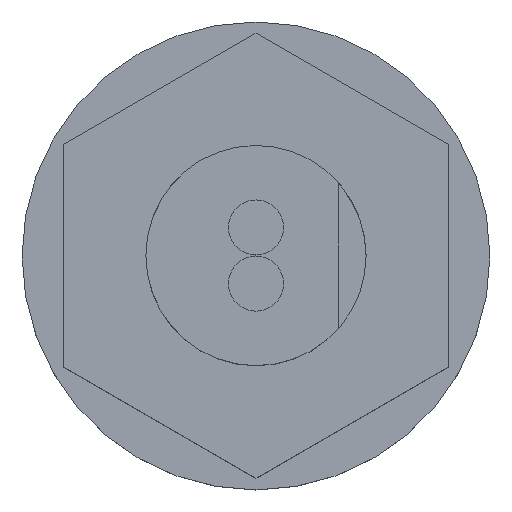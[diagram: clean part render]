
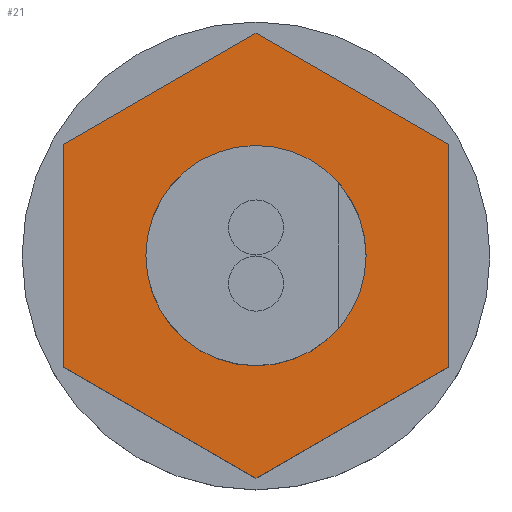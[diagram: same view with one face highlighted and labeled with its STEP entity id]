
A CAD part, top view. The second image highlights one B-rep face of the part: STEP entity #21.
In plain terms, the highlighted planar face has unit normal (0, 0, 1) as drawn and (-1, 0, 0) by its records, which use the part's own axes.
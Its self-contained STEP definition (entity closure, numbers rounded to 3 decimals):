
#12 = VERTEX_POINT ( 'NONE', #692 ) ;
#13 = VERTEX_POINT ( 'NONE', #691 ) ;
#15 = EDGE_CURVE ( 'NONE', #12, #13, #690, .T. ) ;
#21 = ADVANCED_FACE ( 'NONE', ( #675, #674 ), #673, .T. ) ;
#22 = EDGE_LOOP ( 'NONE', ( #60, #105, #108, #111, #163, #159 ) ) ;
#23 = VERTEX_POINT ( 'NONE', #668 ) ;
#24 = ORIENTED_EDGE ( 'NONE', *, *, #25, .F. ) ;
#25 = EDGE_CURVE ( 'NONE', #13, #12, #666, .T. ) ;
#60 = ORIENTED_EDGE ( 'NONE', *, *, #61, .T. ) ;
#61 = EDGE_CURVE ( 'NONE', #23, #62, #746, .T. ) ;
#62 = VERTEX_POINT ( 'NONE', #742 ) ;
#105 = ORIENTED_EDGE ( 'NONE', *, *, #106, .T. ) ;
#106 = EDGE_CURVE ( 'NONE', #62, #107, #816, .T. ) ;
#107 = VERTEX_POINT ( 'NONE', #808 ) ;
#108 = ORIENTED_EDGE ( 'NONE', *, *, #109, .T. ) ;
#109 = EDGE_CURVE ( 'NONE', #107, #110, #807, .T. ) ;
#110 = VERTEX_POINT ( 'NONE', #803 ) ;
#111 = ORIENTED_EDGE ( 'NONE', *, *, #161, .T. ) ;
#157 = ORIENTED_EDGE ( 'NONE', *, *, #15, .F. ) ;
#158 = VERTEX_POINT ( 'NONE', #904 ) ;
#159 = ORIENTED_EDGE ( 'NONE', *, *, #160, .T. ) ;
#160 = EDGE_CURVE ( 'NONE', #158, #23, #903, .T. ) ;
#161 = EDGE_CURVE ( 'NONE', #110, #162, #899, .T. ) ;
#162 = VERTEX_POINT ( 'NONE', #895 ) ;
#163 = ORIENTED_EDGE ( 'NONE', *, *, #164, .T. ) ;
#164 = EDGE_CURVE ( 'NONE', #162, #158, #894, .T. ) ;
#165 = EDGE_LOOP ( 'NONE', ( #157, #24 ) ) ;
#662 = DIRECTION ( 'NONE',  ( 0., -1., 0. ) ) ;
#663 = DIRECTION ( 'NONE',  ( -1., 0., 0. ) ) ;
#664 = CARTESIAN_POINT ( 'NONE',  ( 1.4, 0., 0. ) ) ;
#665 = AXIS2_PLACEMENT_3D ( 'NONE', #664, #663, #662 ) ;
#666 = CIRCLE ( 'NONE', #665, 2. ) ;
#668 = CARTESIAN_POINT ( 'NONE',  ( 1.4, 2.021, 3.5 ) ) ;
#669 = DIRECTION ( 'NONE',  ( 0., -1., 0. ) ) ;
#670 = DIRECTION ( 'NONE',  ( -1., 0., 0. ) ) ;
#671 = CARTESIAN_POINT ( 'NONE',  ( 1.4, 4.041, 0. ) ) ;
#672 = AXIS2_PLACEMENT_3D ( 'NONE', #671, #670, #669 ) ;
#673 = PLANE ( 'NONE',  #672 ) ;
#674 = FACE_BOUND ( 'NONE', #165, .T. ) ;
#675 = FACE_OUTER_BOUND ( 'NONE', #22, .T. ) ;
#686 = DIRECTION ( 'NONE',  ( 0., -1., 0. ) ) ;
#687 = DIRECTION ( 'NONE',  ( -1., 0., 0. ) ) ;
#688 = CARTESIAN_POINT ( 'NONE',  ( 1.4, 0., 0. ) ) ;
#689 = AXIS2_PLACEMENT_3D ( 'NONE', #688, #687, #686 ) ;
#690 = CIRCLE ( 'NONE', #689, 2. ) ;
#691 = CARTESIAN_POINT ( 'NONE',  ( 1.4, -2., 0. ) ) ;
#692 = CARTESIAN_POINT ( 'NONE',  ( 1.4, 2., 0. ) ) ;
#742 = CARTESIAN_POINT ( 'NONE',  ( 1.4, 4.041, 0. ) ) ;
#743 = DIRECTION ( 'NONE',  ( 0., 0.5, -0.866 ) ) ;
#744 = VECTOR ( 'NONE', #743, 1000. ) ;
#745 = CARTESIAN_POINT ( 'NONE',  ( 1.4, 2.021, 3.5 ) ) ;
#746 = LINE ( 'NONE', #745, #744 ) ;
#803 = CARTESIAN_POINT ( 'NONE',  ( 1.4, -2.021, -3.5 ) ) ;
#804 = DIRECTION ( 'NONE',  ( 0., -1., 0. ) ) ;
#805 = VECTOR ( 'NONE', #804, 1000. ) ;
#806 = CARTESIAN_POINT ( 'NONE',  ( 1.4, 2.021, -3.5 ) ) ;
#807 = LINE ( 'NONE', #806, #805 ) ;
#808 = CARTESIAN_POINT ( 'NONE',  ( 1.4, 2.021, -3.5 ) ) ;
#809 = DIRECTION ( 'NONE',  ( 0., -0.5, -0.866 ) ) ;
#810 = VECTOR ( 'NONE', #809, 1000. ) ;
#811 = CARTESIAN_POINT ( 'NONE',  ( 1.4, 4.041, 0. ) ) ;
#816 = LINE ( 'NONE', #811, #810 ) ;
#891 = DIRECTION ( 'NONE',  ( 0., 0.5, 0.866 ) ) ;
#892 = VECTOR ( 'NONE', #891, 1000. ) ;
#893 = CARTESIAN_POINT ( 'NONE',  ( 1.4, -4.041, 0. ) ) ;
#894 = LINE ( 'NONE', #893, #892 ) ;
#895 = CARTESIAN_POINT ( 'NONE',  ( 1.4, -4.041, 0. ) ) ;
#896 = DIRECTION ( 'NONE',  ( 0., -0.5, 0.866 ) ) ;
#897 = VECTOR ( 'NONE', #896, 1000. ) ;
#898 = CARTESIAN_POINT ( 'NONE',  ( 1.4, -2.021, -3.5 ) ) ;
#899 = LINE ( 'NONE', #898, #897 ) ;
#900 = DIRECTION ( 'NONE',  ( 0., 1., 0. ) ) ;
#901 = VECTOR ( 'NONE', #900, 1000. ) ;
#902 = CARTESIAN_POINT ( 'NONE',  ( 1.4, -2.021, 3.5 ) ) ;
#903 = LINE ( 'NONE', #902, #901 ) ;
#904 = CARTESIAN_POINT ( 'NONE',  ( 1.4, -2.021, 3.5 ) ) ;
